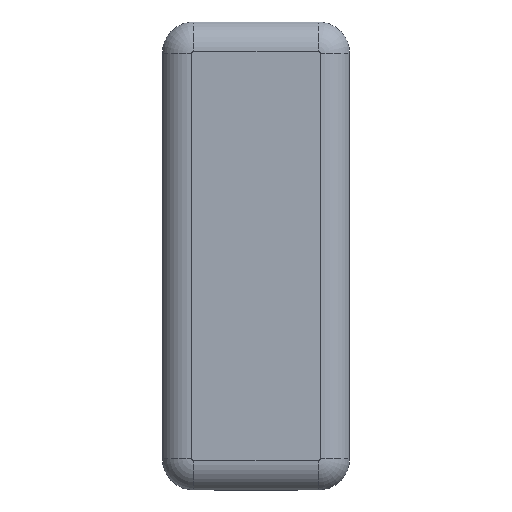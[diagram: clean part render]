
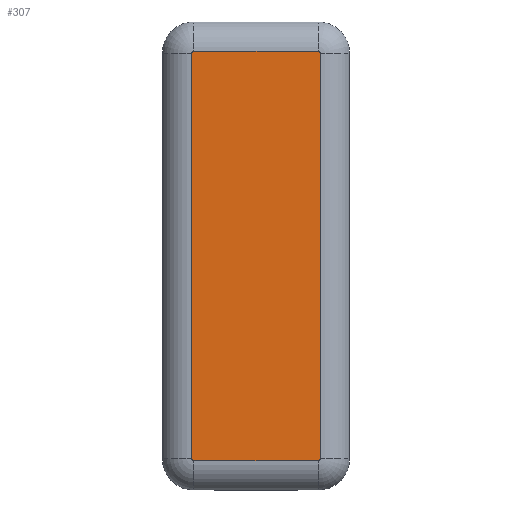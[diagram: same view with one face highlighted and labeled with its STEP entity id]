
A CAD part, top view. The second image highlights one B-rep face of the part: STEP entity #307.
In plain terms, the highlighted planar face has unit normal (0, 0, 1).
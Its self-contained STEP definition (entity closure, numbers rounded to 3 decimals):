
#2 = EDGE_CURVE ( 'NONE', #403, #459, #151, .T. ) ;
#8 = DIRECTION ( 'NONE',  ( 1., 0., 0. ) ) ;
#17 = CARTESIAN_POINT ( 'NONE',  ( 6., -19.5, 2. ) ) ;
#20 = DIRECTION ( 'NONE',  ( 1., 0., 0. ) ) ;
#29 = LINE ( 'NONE', #102, #252 ) ;
#59 = AXIS2_PLACEMENT_3D ( 'NONE', #283, #237, #8 ) ;
#86 = AXIS2_PLACEMENT_3D ( 'NONE', #215, #104, #329 ) ;
#91 = EDGE_CURVE ( 'NONE', #309, #387, #655, .T. ) ;
#102 = CARTESIAN_POINT ( 'NONE',  ( 6.172, 19.5, 2. ) ) ;
#104 = DIRECTION ( 'NONE',  ( 0., 0., 1. ) ) ;
#115 = VECTOR ( 'NONE', #724, 1000. ) ;
#124 = EDGE_CURVE ( 'NONE', #304, #403, #194, .T. ) ;
#126 = VERTEX_POINT ( 'NONE', #375 ) ;
#134 = CIRCLE ( 'NONE', #628, 0.172 ) ;
#141 = CARTESIAN_POINT ( 'NONE',  ( 6.172, -19.5, 2. ) ) ;
#151 = CIRCLE ( 'NONE', #642, 0.172 ) ;
#158 = ORIENTED_EDGE ( 'NONE', *, *, #124, .T. ) ;
#165 = ORIENTED_EDGE ( 'NONE', *, *, #179, .T. ) ;
#179 = EDGE_CURVE ( 'NONE', #282, #363, #323, .T. ) ;
#193 = CARTESIAN_POINT ( 'NONE',  ( 6., -19.672, 2. ) ) ;
#194 = LINE ( 'NONE', #374, #244 ) ;
#198 = ORIENTED_EDGE ( 'NONE', *, *, #635, .T. ) ;
#203 = EDGE_CURVE ( 'NONE', #363, #126, #494, .T. ) ;
#208 = EDGE_CURVE ( 'NONE', #387, #282, #441, .T. ) ;
#215 = CARTESIAN_POINT ( 'NONE',  ( -6., 19.5, 2. ) ) ;
#225 = DIRECTION ( 'NONE',  ( -1., 0., 0. ) ) ;
#232 = FACE_OUTER_BOUND ( 'NONE', #599, .T. ) ;
#237 = DIRECTION ( 'NONE',  ( 0., 0., 1. ) ) ;
#244 = VECTOR ( 'NONE', #448, 1000. ) ;
#252 = VECTOR ( 'NONE', #328, 1000. ) ;
#257 = DIRECTION ( 'NONE',  ( 1., 0., 0. ) ) ;
#275 = DIRECTION ( 'NONE',  ( 0., 0., 1. ) ) ;
#282 = VERTEX_POINT ( 'NONE', #619 ) ;
#283 = CARTESIAN_POINT ( 'NONE',  ( 6., 19.5, 2. ) ) ;
#286 = AXIS2_PLACEMENT_3D ( 'NONE', #523, #638, #20 ) ;
#289 = CARTESIAN_POINT ( 'NONE',  ( -6., -19.672, 2. ) ) ;
#304 = VERTEX_POINT ( 'NONE', #289 ) ;
#307 = ADVANCED_FACE ( 'NONE', ( #232 ), #511, .T. ) ;
#309 = VERTEX_POINT ( 'NONE', #388 ) ;
#323 = CIRCLE ( 'NONE', #86, 0.172 ) ;
#328 = DIRECTION ( 'NONE',  ( 0., 1., 0. ) ) ;
#329 = DIRECTION ( 'NONE',  ( 1., 0., 0. ) ) ;
#355 = VECTOR ( 'NONE', #225, 1000. ) ;
#363 = VERTEX_POINT ( 'NONE', #417 ) ;
#374 = CARTESIAN_POINT ( 'NONE',  ( 6., -19.672, 2. ) ) ;
#375 = CARTESIAN_POINT ( 'NONE',  ( -6.172, -19.5, 2. ) ) ;
#387 = VERTEX_POINT ( 'NONE', #633 ) ;
#388 = CARTESIAN_POINT ( 'NONE',  ( 6.172, 19.5, 2. ) ) ;
#403 = VERTEX_POINT ( 'NONE', #193 ) ;
#417 = CARTESIAN_POINT ( 'NONE',  ( -6.172, 19.5, 2. ) ) ;
#441 = LINE ( 'NONE', #504, #355 ) ;
#448 = DIRECTION ( 'NONE',  ( 1., 0., 0. ) ) ;
#459 = VERTEX_POINT ( 'NONE', #141 ) ;
#484 = CARTESIAN_POINT ( 'NONE',  ( -6., -19.5, 2. ) ) ;
#494 = LINE ( 'NONE', #717, #115 ) ;
#504 = CARTESIAN_POINT ( 'NONE',  ( -6., 19.672, 2. ) ) ;
#511 = PLANE ( 'NONE',  #59 ) ;
#523 = CARTESIAN_POINT ( 'NONE',  ( 6., 19.5, 2. ) ) ;
#529 = DIRECTION ( 'NONE',  ( 1., 0., 0. ) ) ;
#556 = ORIENTED_EDGE ( 'NONE', *, *, #656, .T. ) ;
#578 = ORIENTED_EDGE ( 'NONE', *, *, #2, .T. ) ;
#599 = EDGE_LOOP ( 'NONE', ( #660, #165, #641, #556, #158, #578, #198, #625 ) ) ;
#619 = CARTESIAN_POINT ( 'NONE',  ( -6., 19.672, 2. ) ) ;
#625 = ORIENTED_EDGE ( 'NONE', *, *, #91, .T. ) ;
#628 = AXIS2_PLACEMENT_3D ( 'NONE', #484, #275, #257 ) ;
#633 = CARTESIAN_POINT ( 'NONE',  ( 6., 19.672, 2. ) ) ;
#635 = EDGE_CURVE ( 'NONE', #459, #309, #29, .T. ) ;
#638 = DIRECTION ( 'NONE',  ( 0., 0., 1. ) ) ;
#641 = ORIENTED_EDGE ( 'NONE', *, *, #203, .T. ) ;
#642 = AXIS2_PLACEMENT_3D ( 'NONE', #17, #649, #529 ) ;
#649 = DIRECTION ( 'NONE',  ( 0., 0., 1. ) ) ;
#655 = CIRCLE ( 'NONE', #286, 0.172 ) ;
#656 = EDGE_CURVE ( 'NONE', #126, #304, #134, .T. ) ;
#660 = ORIENTED_EDGE ( 'NONE', *, *, #208, .T. ) ;
#717 = CARTESIAN_POINT ( 'NONE',  ( -6.172, -19.5, 2. ) ) ;
#724 = DIRECTION ( 'NONE',  ( 0., -1., 0. ) ) ;
